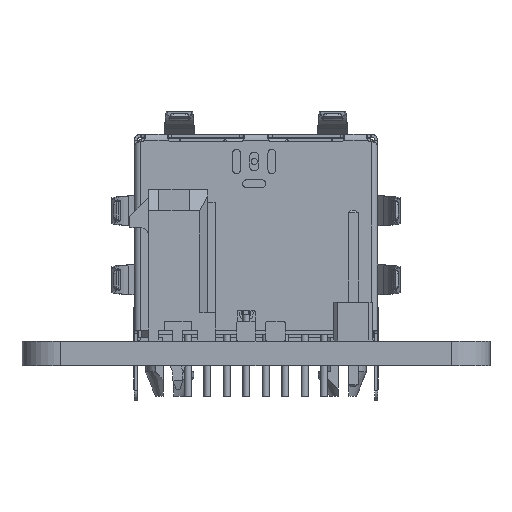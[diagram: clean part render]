
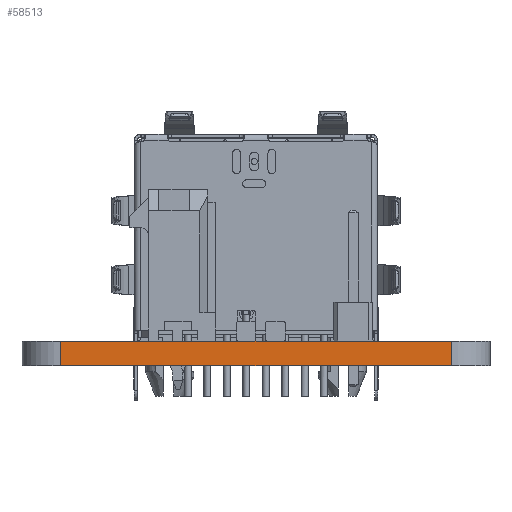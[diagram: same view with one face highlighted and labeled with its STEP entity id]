
A CAD part, left-side view. The second image highlights one B-rep face of the part: STEP entity #58513.
In plain terms, the highlighted planar face has unit normal (-1, 0, 0).
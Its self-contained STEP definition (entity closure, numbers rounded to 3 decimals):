
#5867=FACE_OUTER_BOUND('',#9394,.T.);
#9394=EDGE_LOOP('',(#39058,#39059,#39060,#39061));
#13245=LINE('',#87069,#19068);
#13249=LINE('',#87079,#19072);
#13250=LINE('',#87081,#19073);
#13251=LINE('',#87082,#19074);
#19068=VECTOR('',#69094,1.);
#19072=VECTOR('',#69104,1.);
#19073=VECTOR('',#69105,1.);
#19074=VECTOR('',#69106,1.);
#24892=VERTEX_POINT('',#87066);
#24893=VERTEX_POINT('',#87068);
#24896=VERTEX_POINT('',#87078);
#24897=VERTEX_POINT('',#87080);
#30327=EDGE_CURVE('',#24893,#24892,#13245,.T.);
#30332=EDGE_CURVE('',#24892,#24896,#13249,.T.);
#30333=EDGE_CURVE('',#24897,#24896,#13250,.T.);
#30334=EDGE_CURVE('',#24893,#24897,#13251,.T.);
#39058=ORIENTED_EDGE('',*,*,#30327,.T.);
#39059=ORIENTED_EDGE('',*,*,#30332,.T.);
#39060=ORIENTED_EDGE('',*,*,#30333,.F.);
#39061=ORIENTED_EDGE('',*,*,#30334,.F.);
#56490=PLANE('',#63001);
#58513=ADVANCED_FACE('',(#5867),#56490,.T.);
#63001=AXIS2_PLACEMENT_3D('',#87077,#69102,#69103);
#69094=DIRECTION('',(0.,0.,-1.));
#69102=DIRECTION('center_axis',(-1.,0.,0.));
#69103=DIRECTION('ref_axis',(0.,-1.,0.));
#69104=DIRECTION('',(0.,-1.,0.));
#69105=DIRECTION('',(0.,0.,-1.));
#69106=DIRECTION('',(0.,-1.,0.));
#87066=CARTESIAN_POINT('',(131.74,-79.275,-1.6));
#87068=CARTESIAN_POINT('',(131.74,-79.275,0.));
#87069=CARTESIAN_POINT('',(131.74,-79.275,0.));
#87077=CARTESIAN_POINT('Origin',(131.74,-79.275,0.));
#87078=CARTESIAN_POINT('',(131.74,-104.745,-1.6));
#87079=CARTESIAN_POINT('',(131.74,-79.275,-1.6));
#87080=CARTESIAN_POINT('',(131.74,-104.745,0.));
#87081=CARTESIAN_POINT('',(131.74,-104.745,0.));
#87082=CARTESIAN_POINT('',(131.74,-79.275,0.));
